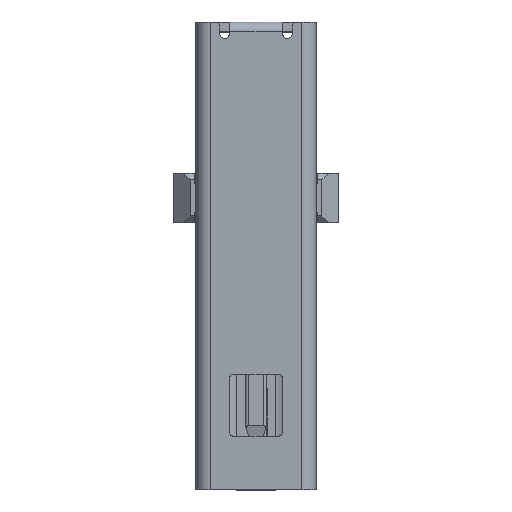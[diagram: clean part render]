
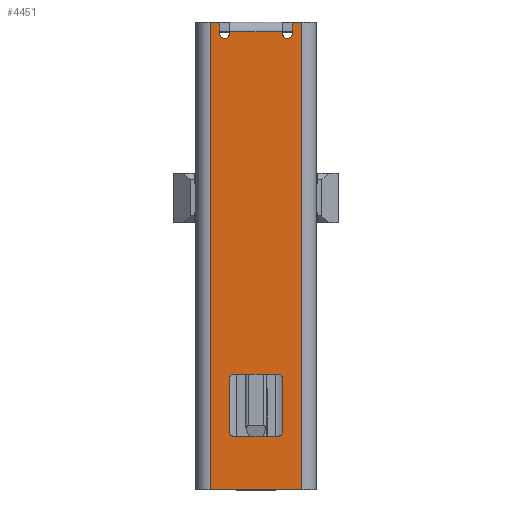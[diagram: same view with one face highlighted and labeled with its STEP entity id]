
A CAD part, top view. The second image highlights one B-rep face of the part: STEP entity #4451.
In plain terms, the highlighted planar face has unit normal (0, 0, 1).
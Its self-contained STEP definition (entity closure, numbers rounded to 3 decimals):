
#1128=DIRECTION('',(0.,1.,0.));
#1129=VECTOR('',#1128,0.05);
#1130=CARTESIAN_POINT('',(3.3,13.85,8.35));
#1131=LINE('',#1130,#1129);
#1132=DIRECTION('',(-1.,0.,0.));
#1133=VECTOR('',#1132,1.6);
#1134=CARTESIAN_POINT('',(3.3,13.9,8.35));
#1135=LINE('',#1134,#1133);
#1136=CARTESIAN_POINT('',(3.45,13.85,8.35));
#1137=DIRECTION('',(0.,0.,1.));
#1138=DIRECTION('',(-1.,0.,0.));
#1139=AXIS2_PLACEMENT_3D('',#1136,#1137,#1138);
#1141=DIRECTION('',(0.,1.,0.));
#1142=VECTOR('',#1141,0.2);
#1143=CARTESIAN_POINT('',(3.6,13.85,8.35));
#1144=LINE('',#1143,#1142);
#1145=CARTESIAN_POINT('',(3.75,14.05,8.35));
#1146=DIRECTION('',(0.,0.,-1.));
#1147=DIRECTION('',(-1.,0.,0.));
#1148=AXIS2_PLACEMENT_3D('',#1145,#1146,#1147);
#1150=DIRECTION('',(1.,0.,0.));
#1151=VECTOR('',#1150,0.135);
#1152=CARTESIAN_POINT('',(3.75,14.2,8.35));
#1153=LINE('',#1152,#1151);
#1154=DIRECTION('',(1.,0.,0.));
#1155=VECTOR('',#1154,0.135);
#1156=CARTESIAN_POINT('',(1.115,14.2,8.35));
#1157=LINE('',#1156,#1155);
#1158=CARTESIAN_POINT('',(1.25,14.05,8.35));
#1159=DIRECTION('',(0.,0.,-1.));
#1160=DIRECTION('',(0.,1.,0.));
#1161=AXIS2_PLACEMENT_3D('',#1158,#1159,#1160);
#1163=CARTESIAN_POINT('',(1.55,13.85,8.35));
#1164=DIRECTION('',(0.,0.,1.));
#1165=DIRECTION('',(-1.,0.,0.));
#1166=AXIS2_PLACEMENT_3D('',#1163,#1164,#1165);
#1168=DIRECTION('',(0.,1.,0.));
#1169=VECTOR('',#1168,0.05);
#1170=CARTESIAN_POINT('',(1.7,13.85,8.35));
#1171=LINE('',#1170,#1169);
#1172=DIRECTION('',(1.,0.,0.));
#1173=VECTOR('',#1172,1.4);
#1174=CARTESIAN_POINT('',(1.8,1.63,8.35));
#1175=LINE('',#1174,#1173);
#1176=CARTESIAN_POINT('',(3.2,1.73,8.35));
#1177=DIRECTION('',(0.,0.,1.));
#1178=DIRECTION('',(0.,-1.,0.));
#1179=AXIS2_PLACEMENT_3D('',#1176,#1177,#1178);
#1181=DIRECTION('',(0.,1.,0.));
#1182=VECTOR('',#1181,1.67);
#1183=CARTESIAN_POINT('',(3.3,1.73,8.35));
#1184=LINE('',#1183,#1182);
#1185=CARTESIAN_POINT('',(3.2,3.4,8.35));
#1186=DIRECTION('',(0.,0.,1.));
#1187=DIRECTION('',(1.,0.,0.));
#1188=AXIS2_PLACEMENT_3D('',#1185,#1186,#1187);
#1190=CARTESIAN_POINT('',(1.8,3.4,8.35));
#1191=DIRECTION('',(0.,0.,1.));
#1192=DIRECTION('',(0.,1.,0.));
#1193=AXIS2_PLACEMENT_3D('',#1190,#1191,#1192);
#1195=DIRECTION('',(0.,-1.,0.));
#1196=VECTOR('',#1195,1.67);
#1197=CARTESIAN_POINT('',(1.7,3.4,8.35));
#1198=LINE('',#1197,#1196);
#1199=CARTESIAN_POINT('',(1.8,1.73,8.35));
#1200=DIRECTION('',(0.,0.,1.));
#1201=DIRECTION('',(-1.,0.,0.));
#1202=AXIS2_PLACEMENT_3D('',#1199,#1200,#1201);
#1313=DIRECTION('',(0.,1.,0.));
#1314=VECTOR('',#1313,0.2);
#1315=CARTESIAN_POINT('',(1.4,13.85,8.35));
#1316=LINE('',#1315,#1314);
#1342=DIRECTION('',(0.,-1.,0.));
#1343=VECTOR('',#1342,14.2);
#1344=CARTESIAN_POINT('',(1.115,14.2,8.35));
#1345=LINE('',#1344,#1343);
#1355=DIRECTION('',(1.,0.,0.));
#1356=VECTOR('',#1355,2.77);
#1357=CARTESIAN_POINT('',(1.115,0.,8.35));
#1358=LINE('',#1357,#1356);
#1438=DIRECTION('',(0.,1.,0.));
#1439=VECTOR('',#1438,14.2);
#1440=CARTESIAN_POINT('',(3.885,0.,8.35));
#1441=LINE('',#1440,#1439);
#3531=DIRECTION('',(1.,0.,0.));
#3532=VECTOR('',#3531,1.4);
#3533=CARTESIAN_POINT('',(1.8,3.5,8.35));
#3534=LINE('',#3533,#3532);
#3793=CARTESIAN_POINT('',(3.75,14.2,8.35));
#3795=VERTEX_POINT('',#3793);
#3804=CARTESIAN_POINT('',(3.885,14.2,8.35));
#3805=VERTEX_POINT('',#3804);
#3806=CARTESIAN_POINT('',(1.25,14.2,8.35));
#3808=VERTEX_POINT('',#3806);
#3810=CARTESIAN_POINT('',(1.115,14.2,8.35));
#3811=VERTEX_POINT('',#3810);
#3812=CARTESIAN_POINT('',(3.6,14.05,8.35));
#3813=VERTEX_POINT('',#3812);
#3816=CARTESIAN_POINT('',(3.3,13.9,8.35));
#3817=CARTESIAN_POINT('',(1.7,13.9,8.35));
#3818=VERTEX_POINT('',#3816);
#3819=VERTEX_POINT('',#3817);
#3820=CARTESIAN_POINT('',(3.3,13.85,8.35));
#3821=VERTEX_POINT('',#3820);
#3822=CARTESIAN_POINT('',(3.6,13.85,8.35));
#3823=VERTEX_POINT('',#3822);
#3824=CARTESIAN_POINT('',(3.885,0.,8.35));
#3825=VERTEX_POINT('',#3824);
#3826=CARTESIAN_POINT('',(1.115,0.,8.35));
#3827=VERTEX_POINT('',#3826);
#3828=CARTESIAN_POINT('',(1.4,14.05,8.35));
#3829=VERTEX_POINT('',#3828);
#3830=CARTESIAN_POINT('',(1.4,13.85,8.35));
#3831=VERTEX_POINT('',#3830);
#3832=CARTESIAN_POINT('',(1.7,13.85,8.35));
#3833=VERTEX_POINT('',#3832);
#3834=CARTESIAN_POINT('',(1.8,1.63,8.35));
#3835=CARTESIAN_POINT('',(3.2,1.63,8.35));
#3836=VERTEX_POINT('',#3834);
#3837=VERTEX_POINT('',#3835);
#3838=CARTESIAN_POINT('',(3.3,1.73,8.35));
#3839=VERTEX_POINT('',#3838);
#3840=CARTESIAN_POINT('',(3.3,3.4,8.35));
#3841=VERTEX_POINT('',#3840);
#3842=CARTESIAN_POINT('',(3.2,3.5,8.35));
#3843=VERTEX_POINT('',#3842);
#3844=CARTESIAN_POINT('',(1.8,3.5,8.35));
#3845=VERTEX_POINT('',#3844);
#3846=CARTESIAN_POINT('',(1.7,3.4,8.35));
#3847=VERTEX_POINT('',#3846);
#3848=CARTESIAN_POINT('',(1.7,1.73,8.35));
#3849=VERTEX_POINT('',#3848);
#4400=CARTESIAN_POINT('',(3.6,3.1,8.35));
#4401=DIRECTION('',(0.,0.,1.));
#4402=DIRECTION('',(1.,0.,0.));
#4403=AXIS2_PLACEMENT_3D('',#4400,#4401,#4402);
#4404=PLANE('',#4403);
#4405=ORIENTED_EDGE('',*,*,#4391,.F.);
#4406=ORIENTED_EDGE('',*,*,#4380,.F.);
#4408=ORIENTED_EDGE('',*,*,#4407,.T.);
#4410=ORIENTED_EDGE('',*,*,#4409,.T.);
#4412=ORIENTED_EDGE('',*,*,#4411,.T.);
#4414=ORIENTED_EDGE('',*,*,#4413,.T.);
#4416=ORIENTED_EDGE('',*,*,#4415,.F.);
#4418=ORIENTED_EDGE('',*,*,#4417,.F.);
#4420=ORIENTED_EDGE('',*,*,#4419,.F.);
#4422=ORIENTED_EDGE('',*,*,#4421,.T.);
#4424=ORIENTED_EDGE('',*,*,#4423,.T.);
#4426=ORIENTED_EDGE('',*,*,#4425,.F.);
#4428=ORIENTED_EDGE('',*,*,#4427,.T.);
#4430=ORIENTED_EDGE('',*,*,#4429,.T.);
#4431=EDGE_LOOP('',(#4405,#4406,#4408,#4410,#4412,#4414,#4416,#4418,#4420,#4422,
#4424,#4426,#4428,#4430));
#4432=FACE_OUTER_BOUND('',#4431,.F.);
#4434=ORIENTED_EDGE('',*,*,#4433,.T.);
#4436=ORIENTED_EDGE('',*,*,#4435,.T.);
#4438=ORIENTED_EDGE('',*,*,#4437,.T.);
#4440=ORIENTED_EDGE('',*,*,#4439,.T.);
#4442=ORIENTED_EDGE('',*,*,#4441,.F.);
#4444=ORIENTED_EDGE('',*,*,#4443,.T.);
#4446=ORIENTED_EDGE('',*,*,#4445,.T.);
#4448=ORIENTED_EDGE('',*,*,#4447,.T.);
#4449=EDGE_LOOP('',(#4434,#4436,#4438,#4440,#4442,#4444,#4446,#4448));
#4450=FACE_BOUND('',#4449,.F.);
#4451=ADVANCED_FACE('',(#4432,#4450),#4404,.T.);
#1140=CIRCLE('',#1139,0.15);
#1149=CIRCLE('',#1148,0.15);
#1162=CIRCLE('',#1161,0.15);
#1167=CIRCLE('',#1166,0.15);
#1180=CIRCLE('',#1179,0.1);
#1189=CIRCLE('',#1188,0.1);
#1194=CIRCLE('',#1193,0.1);
#1203=CIRCLE('',#1202,0.1);
#4380=EDGE_CURVE('',#3821,#3818,#1131,.T.);
#4391=EDGE_CURVE('',#3818,#3819,#1135,.T.);
#4407=EDGE_CURVE('',#3821,#3823,#1140,.T.);
#4409=EDGE_CURVE('',#3823,#3813,#1144,.T.);
#4411=EDGE_CURVE('',#3813,#3795,#1149,.T.);
#4413=EDGE_CURVE('',#3795,#3805,#1153,.T.);
#4415=EDGE_CURVE('',#3825,#3805,#1441,.T.);
#4417=EDGE_CURVE('',#3827,#3825,#1358,.T.);
#4419=EDGE_CURVE('',#3811,#3827,#1345,.T.);
#4421=EDGE_CURVE('',#3811,#3808,#1157,.T.);
#4423=EDGE_CURVE('',#3808,#3829,#1162,.T.);
#4425=EDGE_CURVE('',#3831,#3829,#1316,.T.);
#4427=EDGE_CURVE('',#3831,#3833,#1167,.T.);
#4429=EDGE_CURVE('',#3833,#3819,#1171,.T.);
#4433=EDGE_CURVE('',#3836,#3837,#1175,.T.);
#4435=EDGE_CURVE('',#3837,#3839,#1180,.T.);
#4437=EDGE_CURVE('',#3839,#3841,#1184,.T.);
#4439=EDGE_CURVE('',#3841,#3843,#1189,.T.);
#4441=EDGE_CURVE('',#3845,#3843,#3534,.T.);
#4443=EDGE_CURVE('',#3845,#3847,#1194,.T.);
#4445=EDGE_CURVE('',#3847,#3849,#1198,.T.);
#4447=EDGE_CURVE('',#3849,#3836,#1203,.T.);
